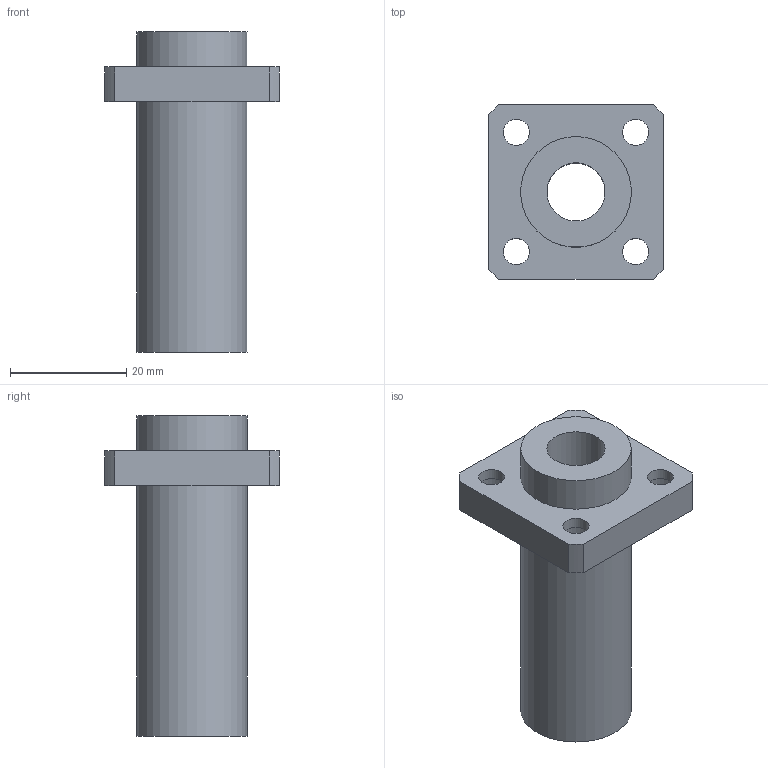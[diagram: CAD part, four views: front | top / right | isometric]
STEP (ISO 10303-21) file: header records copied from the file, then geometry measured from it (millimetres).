
FILE_DESCRIPTION(/* description */ (''),/* implementation_level */ '2;1');
FILE_NAME(/* name */ 'LMKP10LUU',/* time_stamp */ '2019-07-10T14:02:09+02:00',/* author */ ('VĂ©gh MĂˇtĂ©'),/* organization */ ('Bearing Kft'),/* preprocessor_version */ 'ST-DEVELOPER v16.7',/* originating_system */ 'DEX',/* authorisation */ $);
FILE_SCHEMA (('AUTOMOTIVE_DESIGN {1 0 10303 214 3 1 1}'));
Length unit declared in the file: millimetre
Products named in the file (1): LMKP10LUU
Bounding box: 30 x 30 x 55 mm (x, y, z)
Volume: 14090.6 mm3; surface area: 7358.8 mm2
Topology: 1 solids, 1 shells, 344 faces, 865 edges, 578 vertices
Faces by surface type: plane 264, bspline 62, cylinder 18
Full cylindrical faces by diameter (mm): 4.5 x4, 7.5 x4, 10 x1, 19 x2
Entity records: 12825 total; most frequent: CARTESIAN_POINT 4964, ORIENTED_EDGE 1694, DIRECTION 1325, EDGE_CURVE 847, LINE 687, VECTOR 687, VERTEX_POINT 574, EDGE_LOOP 423
